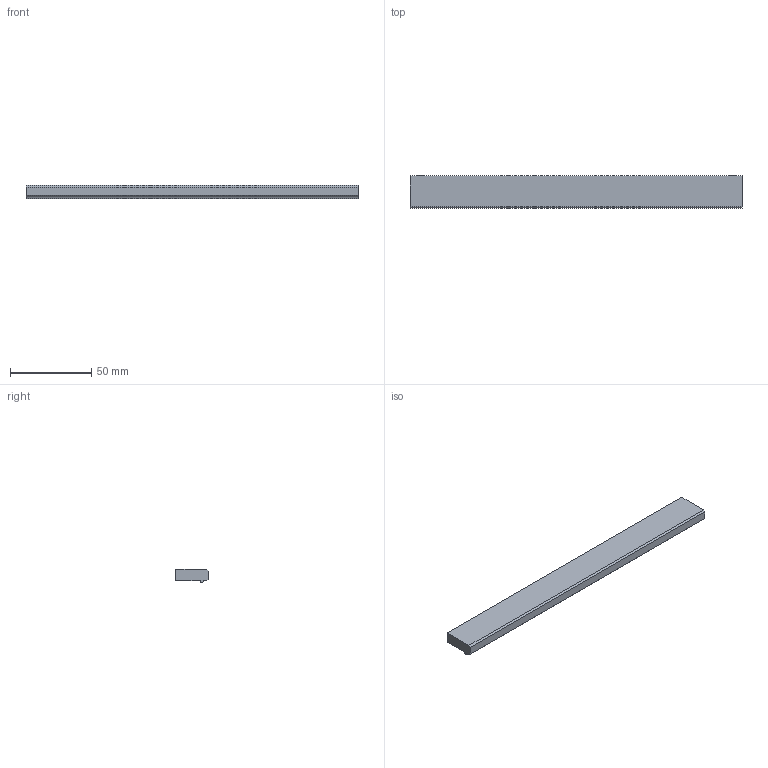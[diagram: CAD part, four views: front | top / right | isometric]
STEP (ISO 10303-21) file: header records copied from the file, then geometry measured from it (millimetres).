
FILE_DESCRIPTION( ( 'STEP AP214' ), '1' );
FILE_NAME( 'C:/Users/kulkarni/Desktop/Apurva/2015/Prodecor_2016/Cadfiles/same as files/stabia/9204158.stp', ' ', ( ' ' ), ( ' ' ), 'PSStep 15.0.47', 'PARTsolutions', ' ' );
FILE_SCHEMA( ( 'AUTOMOTIVE_DESIGN { 1 0 10303 214 1 1 1 1 }' ) );
Length unit declared in the file: millimetre
Products named in the file (1): _9204158
Bounding box: 204 x 20 x 8 mm (x, y, z)
Volume: 28475.4 mm3; surface area: 11492.1 mm2
Topology: 1 solids, 1 shells, 14 faces, 30 edges, 20 vertices
Faces by surface type: plane 11, cylinder 3
Full cylindrical faces by diameter (mm): 4 x2
Entity records: 498 total; most frequent: DIRECTION 64, CARTESIAN_POINT 63, ORIENTED_EDGE 56, EDGE_CURVE 28, LINE 22, VECTOR 22, AXIS2_PLACEMENT_3D 21, VERTEX_POINT 20
